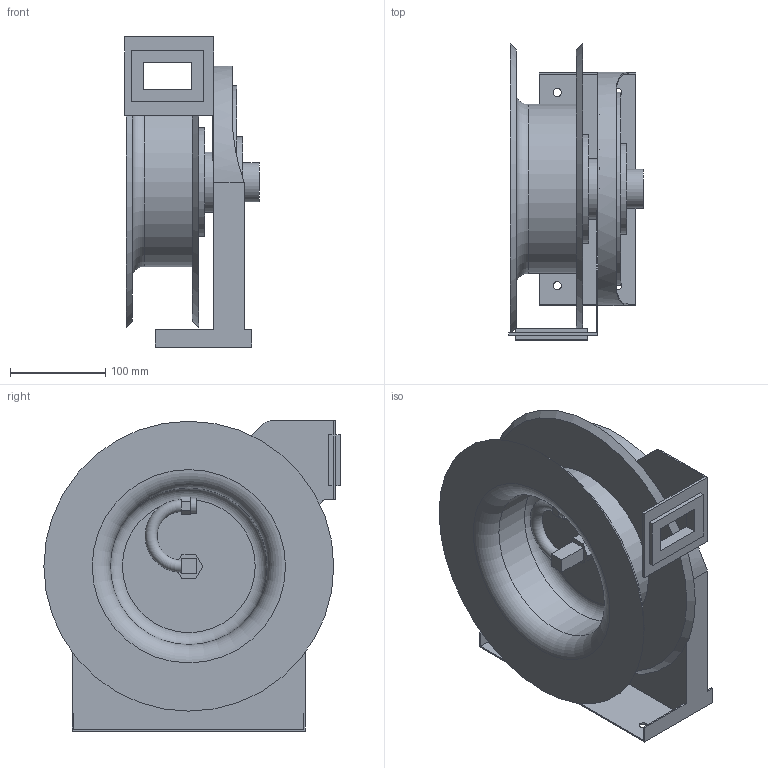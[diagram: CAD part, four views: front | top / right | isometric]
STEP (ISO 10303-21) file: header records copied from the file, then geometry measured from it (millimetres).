
FILE_DESCRIPTION( ( 'Unknown' ), '1' );
FILE_NAME( 'J:/NPD/RE 12893 3D WEB MODELS/4000 SERIES/4000 OXP SW.stp', 'Unknown', ( 'Unknown' ), ( 'Unknown' ), 'PSStep 10.1', 'Unknown', ' ' );
FILE_SCHEMA( ( 'AUTOMOTIVE_DESIGN { 1 0 10303 214 1 1 1 1 }' ) );
Length unit declared in the file: millimetre
Products named in the file (1): 1
Bounding box: 141.53 x 311.48 x 326.11 mm (x, y, z)
Volume: 2104457 mm3; surface area: 593669.4 mm2
Topology: 1 solids, 1 shells, 116 faces, 279 edges, 182 vertices
Faces by surface type: plane 87, cylinder 21, cone 4, torus 4
Full cylindrical faces by diameter (mm): 8.712 x4, 11.862 x1, 15.281 x1, 15.875 x1, 25.4 x1, 41.275 x1, 63.5 x1, 95.25 x1, 114.3 x1, 165.1 x1, 177.8 x1, 203.2 x1
Entity records: 4168 total; most frequent: CARTESIAN_POINT 593, DIRECTION 542, ORIENTED_EDGE 494, EDGE_CURVE 247, AXIS2_PLACEMENT_3D 182, LINE 178, VECTOR 178, VERTEX_POINT 173
